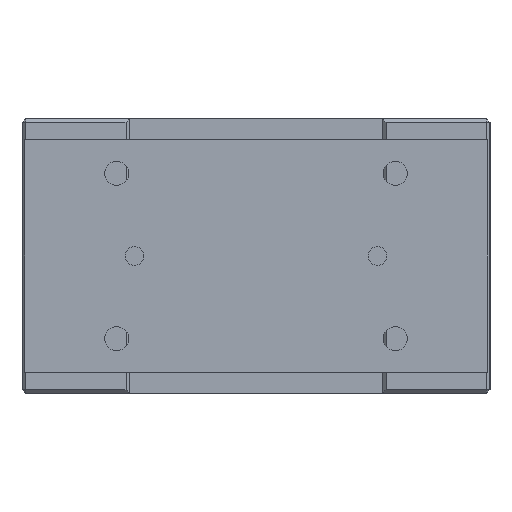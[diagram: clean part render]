
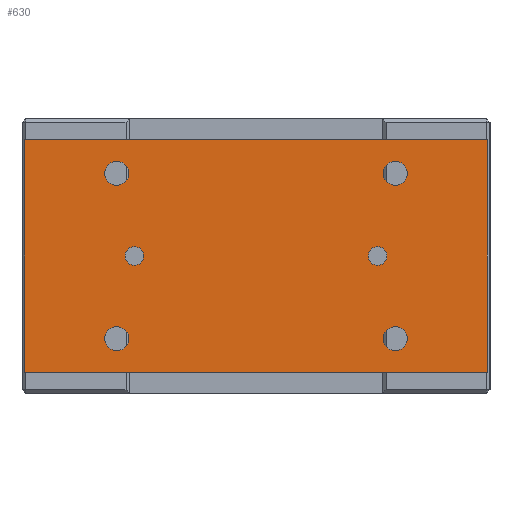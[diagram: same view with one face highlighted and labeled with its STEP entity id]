
A CAD part, left-side view. The second image highlights one B-rep face of the part: STEP entity #630.
In plain terms, the highlighted planar face has unit normal (-1, 0, 0).
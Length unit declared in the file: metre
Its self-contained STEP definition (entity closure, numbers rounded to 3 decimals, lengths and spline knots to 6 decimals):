
#630 = ADVANCED_FACE( '', ( #1409, #1410, #1411, #1412, #1413, #1414, #1415 ), #1416, .T. );
#1409 = FACE_BOUND( '', #2303, .T. );
#1410 = FACE_BOUND( '', #2304, .T. );
#1411 = FACE_BOUND( '', #2305, .T. );
#1412 = FACE_BOUND( '', #2306, .T. );
#1413 = FACE_BOUND( '', #2307, .T. );
#1414 = FACE_BOUND( '', #2308, .T. );
#1415 = FACE_OUTER_BOUND( '', #2309, .T. );
#1416 = PLANE( '', #2310 );
#2303 = EDGE_LOOP( '', ( #3813 ) );
#2304 = EDGE_LOOP( '', ( #3814 ) );
#2305 = EDGE_LOOP( '', ( #3815 ) );
#2306 = EDGE_LOOP( '', ( #3816 ) );
#2307 = EDGE_LOOP( '', ( #3817 ) );
#2308 = EDGE_LOOP( '', ( #3818 ) );
#2309 = EDGE_LOOP( '', ( #3819, #3820, #3821, #3822 ) );
#2310 = AXIS2_PLACEMENT_3D( '', #3823, #3824, #3825 );
#3813 = ORIENTED_EDGE( '', *, *, #4535, .F. );
#3814 = ORIENTED_EDGE( '', *, *, #4608, .T. );
#3815 = ORIENTED_EDGE( '', *, *, #4677, .F. );
#3816 = ORIENTED_EDGE( '', *, *, #4633, .F. );
#3817 = ORIENTED_EDGE( '', *, *, #4777, .F. );
#3818 = ORIENTED_EDGE( '', *, *, #4804, .F. );
#3819 = ORIENTED_EDGE( '', *, *, #4643, .T. );
#3820 = ORIENTED_EDGE( '', *, *, #4664, .T. );
#3821 = ORIENTED_EDGE( '', *, *, #4826, .T. );
#3822 = ORIENTED_EDGE( '', *, *, #4815, .T. );
#3823 = CARTESIAN_POINT( '', ( -0.143, -0.1245, -0.0115 ) );
#3824 = DIRECTION( '', ( -1., 0., 0. ) );
#3825 = DIRECTION( '', ( 0., 0., 1. ) );
#4535 = EDGE_CURVE( '', #5336, #5336, #5337, .T. );
#4608 = EDGE_CURVE( '', #5443, #5443, #5444, .T. );
#4633 = EDGE_CURVE( '', #5481, #5481, #5482, .T. );
#4643 = EDGE_CURVE( '', #5496, #5494, #5497, .T. );
#4664 = EDGE_CURVE( '', #5494, #5526, #5528, .T. );
#4677 = EDGE_CURVE( '', #5546, #5546, #5547, .T. );
#4777 = EDGE_CURVE( '', #5677, #5677, #5678, .T. );
#4804 = EDGE_CURVE( '', #5710, #5710, #5711, .T. );
#4815 = EDGE_CURVE( '', #5722, #5496, #5723, .T. );
#4826 = EDGE_CURVE( '', #5526, #5722, #5738, .T. );
#5336 = VERTEX_POINT( '', #6491 );
#5337 = CIRCLE( '', #6492, 0.005 );
#5443 = VERTEX_POINT( '', #6652 );
#5444 = CIRCLE( '', #6653, 0.005 );
#5481 = VERTEX_POINT( '', #6731 );
#5482 = CIRCLE( '', #6732, 0.0065 );
#5494 = VERTEX_POINT( '', #6748 );
#5496 = VERTEX_POINT( '', #6751 );
#5497 = LINE( '', #6752, #6753 );
#5526 = VERTEX_POINT( '', #6790 );
#5528 = LINE( '', #6793, #6794 );
#5546 = VERTEX_POINT( '', #6817 );
#5547 = CIRCLE( '', #6818, 0.0065 );
#5677 = VERTEX_POINT( '', #7016 );
#5678 = CIRCLE( '', #7017, 0.0065 );
#5710 = VERTEX_POINT( '', #7057 );
#5711 = CIRCLE( '', #7058, 0.0065 );
#5722 = VERTEX_POINT( '', #7071 );
#5723 = LINE( '', #7072, #7073 );
#5738 = LINE( '', #7125, #7126 );
#6491 = CARTESIAN_POINT( '', ( -0.143, -0.0705, -0.074 ) );
#6492 = AXIS2_PLACEMENT_3D( '', #7589, #7590, #7591 );
#6652 = CARTESIAN_POINT( '', ( -0.143, 0.0705, -0.074 ) );
#6653 = AXIS2_PLACEMENT_3D( '', #7682, #7683, #7684 );
#6731 = CARTESIAN_POINT( '', ( -0.143, 0.075, -0.112 ) );
#6732 = AXIS2_PLACEMENT_3D( '', #7711, #7712, #7713 );
#6748 = CARTESIAN_POINT( '', ( -0.143, -0.1245, -0.0115 ) );
#6751 = CARTESIAN_POINT( '', ( -0.143, -0.1245, -0.1365 ) );
#6752 = CARTESIAN_POINT( '', ( -0.143, -0.1245, -0.1365 ) );
#6753 = VECTOR( '', #7722, 1. );
#6790 = CARTESIAN_POINT( '', ( -0.143, 0.1245, -0.0115 ) );
#6793 = CARTESIAN_POINT( '', ( -0.143, -0.1245, -0.0115 ) );
#6794 = VECTOR( '', #7744, 1. );
#6817 = CARTESIAN_POINT( '', ( -0.143, -0.075, -0.112 ) );
#6818 = AXIS2_PLACEMENT_3D( '', #7756, #7757, #7758 );
#7016 = CARTESIAN_POINT( '', ( -0.143, -0.075, -0.023 ) );
#7017 = AXIS2_PLACEMENT_3D( '', #7854, #7855, #7856 );
#7057 = CARTESIAN_POINT( '', ( -0.143, 0.075, -0.023 ) );
#7058 = AXIS2_PLACEMENT_3D( '', #7877, #7878, #7879 );
#7071 = CARTESIAN_POINT( '', ( -0.143, 0.1245, -0.1365 ) );
#7072 = CARTESIAN_POINT( '', ( -0.143, 0.1245, -0.1365 ) );
#7073 = VECTOR( '', #7885, 1. );
#7125 = CARTESIAN_POINT( '', ( -0.143, 0.1245, -0.0115 ) );
#7126 = VECTOR( '', #7893, 1. );
#7589 = CARTESIAN_POINT( '', ( -0.143, -0.0655, -0.074 ) );
#7590 = DIRECTION( '', ( -1., 0., 0. ) );
#7591 = DIRECTION( '', ( 0., -1., 0. ) );
#7682 = CARTESIAN_POINT( '', ( -0.143, 0.0655, -0.074 ) );
#7683 = DIRECTION( '', ( 1., 0., 0. ) );
#7684 = DIRECTION( '', ( 0., 1., 0. ) );
#7711 = CARTESIAN_POINT( '', ( -0.143, 0.075, -0.1185 ) );
#7712 = DIRECTION( '', ( -1., 0., 0. ) );
#7713 = DIRECTION( '', ( 0., 0., 1. ) );
#7722 = DIRECTION( '', ( 0., 0., 1. ) );
#7744 = DIRECTION( '', ( 0., 1., 0. ) );
#7756 = CARTESIAN_POINT( '', ( -0.143, -0.075, -0.1185 ) );
#7757 = DIRECTION( '', ( -1., 0., 0. ) );
#7758 = DIRECTION( '', ( 0., 0., 1. ) );
#7854 = CARTESIAN_POINT( '', ( -0.143, -0.075, -0.0295 ) );
#7855 = DIRECTION( '', ( -1., 0., 0. ) );
#7856 = DIRECTION( '', ( 0., 0., 1. ) );
#7877 = CARTESIAN_POINT( '', ( -0.143, 0.075, -0.0295 ) );
#7878 = DIRECTION( '', ( -1., 0., 0. ) );
#7879 = DIRECTION( '', ( 0., 0., 1. ) );
#7885 = DIRECTION( '', ( 0., -1., 0. ) );
#7893 = DIRECTION( '', ( 0., 0., -1. ) );
